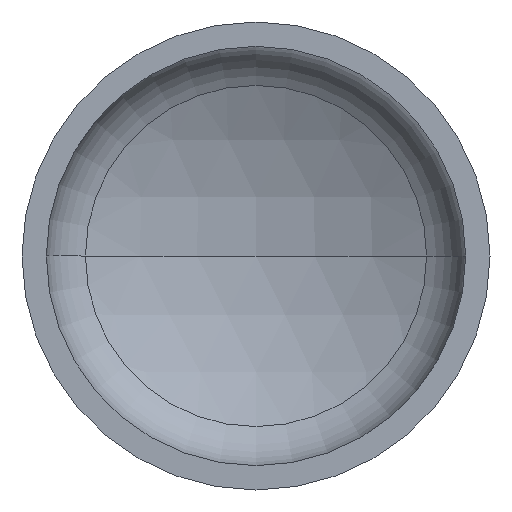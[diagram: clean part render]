
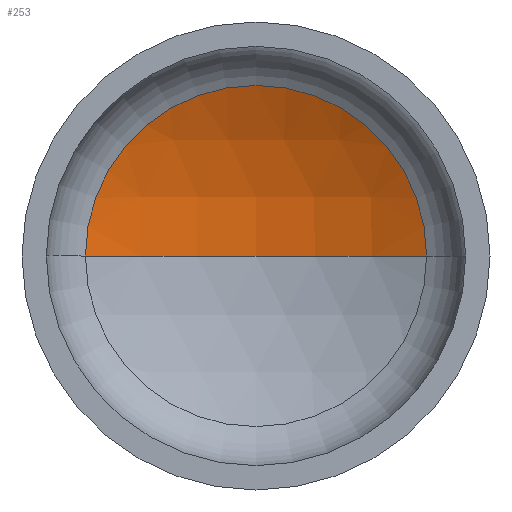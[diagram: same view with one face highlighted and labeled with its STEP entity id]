
A CAD part, front view. The second image highlights one B-rep face of the part: STEP entity #253.
In plain terms, the highlighted spherical face has radius 1200 mm.
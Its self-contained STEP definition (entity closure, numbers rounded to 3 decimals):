
#1 = AXIS2_PLACEMENT_3D ( 'NONE', #94, #134, #150 ) ;
#2 = AXIS2_PLACEMENT_3D ( 'NONE', #325, #246, #377 ) ;
#14 = AXIS2_PLACEMENT_3D ( 'NONE', #282, #254, #34 ) ;
#21 = CARTESIAN_POINT ( 'NONE',  ( 0., 324.734, 0. ) ) ;
#31 = ORIENTED_EDGE ( 'NONE', *, *, #347, .T. ) ;
#34 = DIRECTION ( 'NONE',  ( -1., 0., 0. ) ) ;
#35 = AXIS2_PLACEMENT_3D ( 'NONE', #21, #376, #327 ) ;
#51 = EDGE_LOOP ( 'NONE', ( #108, #31, #96 ) ) ;
#72 = VERTEX_POINT ( 'NONE', #351 ) ;
#93 = EDGE_CURVE ( 'NONE', #109, #72, #330, .T. ) ;
#94 = CARTESIAN_POINT ( 'NONE',  ( 0., -743.444, 0. ) ) ;
#96 = ORIENTED_EDGE ( 'NONE', *, *, #93, .T. ) ;
#102 = CARTESIAN_POINT ( 'NONE',  ( 546.804, 324.734, 0. ) ) ;
#108 = ORIENTED_EDGE ( 'NONE', *, *, #355, .F. ) ;
#109 = VERTEX_POINT ( 'NONE', #102 ) ;
#134 = DIRECTION ( 'NONE',  ( 0., 0., 1. ) ) ;
#150 = DIRECTION ( 'NONE',  ( 1., 0., 0. ) ) ;
#155 = VERTEX_POINT ( 'NONE', #218 ) ;
#194 = SPHERICAL_SURFACE ( 'NONE', #14, 1200. ) ;
#201 = FACE_OUTER_BOUND ( 'NONE', #51, .T. ) ;
#218 = CARTESIAN_POINT ( 'NONE',  ( 0., 456.556, 0. ) ) ;
#236 = CIRCLE ( 'NONE', #1, 1200. ) ;
#246 = DIRECTION ( 'NONE',  ( 0., 0., -1. ) ) ;
#253 = ADVANCED_FACE ( 'NONE', ( #201 ), #194, .F. ) ;
#254 = DIRECTION ( 'NONE',  ( 0., 0., -1. ) ) ;
#282 = CARTESIAN_POINT ( 'NONE',  ( 0., -743.444, 0. ) ) ;
#325 = CARTESIAN_POINT ( 'NONE',  ( 0., -743.444, 0. ) ) ;
#327 = DIRECTION ( 'NONE',  ( 1., 0., 0. ) ) ;
#330 = CIRCLE ( 'NONE', #35, 546.804 ) ;
#347 = EDGE_CURVE ( 'NONE', #155, #109, #364, .T. ) ;
#351 = CARTESIAN_POINT ( 'NONE',  ( -546.804, 324.734, 0. ) ) ;
#355 = EDGE_CURVE ( 'NONE', #155, #72, #236, .T. ) ;
#364 = CIRCLE ( 'NONE', #2, 1200. ) ;
#376 = DIRECTION ( 'NONE',  ( 0., -1., 0. ) ) ;
#377 = DIRECTION ( 'NONE',  ( -1., 0., 0. ) ) ;
